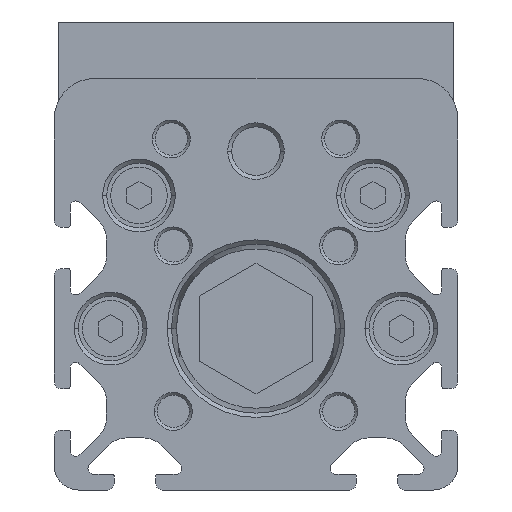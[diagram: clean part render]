
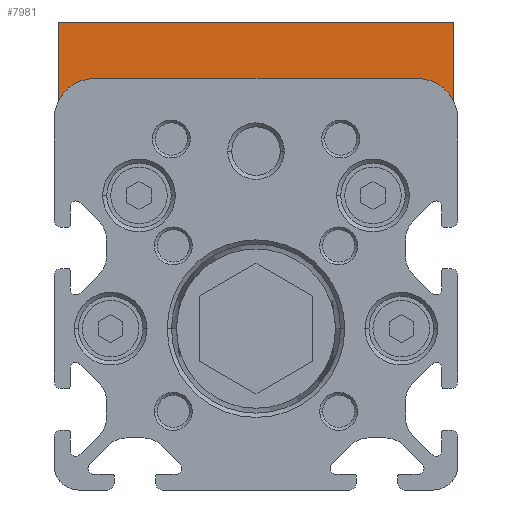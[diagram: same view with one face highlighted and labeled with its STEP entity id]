
A CAD part, left-side view. The second image highlights one B-rep face of the part: STEP entity #7981.
In plain terms, the highlighted planar face has unit normal (-1, 0, 0).
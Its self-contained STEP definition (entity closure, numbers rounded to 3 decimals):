
#257 = EDGE_CURVE ( 'NONE', #3636, #15406, #4924, .T. ) ;
#1990 = CARTESIAN_POINT ( 'NONE',  ( -27.5, 22., 0. ) ) ;
#2628 = EDGE_CURVE ( 'NONE', #23564, #15406, #4145, .T. ) ;
#3283 = LINE ( 'NONE', #17946, #12803 ) ;
#3596 = DIRECTION ( 'NONE',  ( 0., 0., 1. ) ) ;
#3636 = VERTEX_POINT ( 'NONE', #8396 ) ;
#4145 = LINE ( 'NONE', #10349, #9450 ) ;
#4288 = CARTESIAN_POINT ( 'NONE',  ( -27.5, 24.5, 18. ) ) ;
#4924 = LINE ( 'NONE', #25516, #21695 ) ;
#5285 = ORIENTED_EDGE ( 'NONE', *, *, #21792, .T. ) ;
#7981 = ADVANCED_FACE ( 'NONE', ( #25422 ), #11162, .T. ) ;
#8396 = CARTESIAN_POINT ( 'NONE',  ( -27.5, -24.5, 18. ) ) ;
#9450 = VECTOR ( 'NONE', #3596, 1000. ) ;
#10349 = CARTESIAN_POINT ( 'NONE',  ( -27.5, 24.5, 0. ) ) ;
#11162 = PLANE ( 'NONE',  #21671 ) ;
#12478 = LINE ( 'NONE', #1990, #25067 ) ;
#12803 = VECTOR ( 'NONE', #23868, 1000. ) ;
#14762 = ORIENTED_EDGE ( 'NONE', *, *, #257, .T. ) ;
#15323 = DIRECTION ( 'NONE',  ( 0., -1., 0. ) ) ;
#15406 = VERTEX_POINT ( 'NONE', #4288 ) ;
#16858 = DIRECTION ( 'NONE',  ( -1., 0., 0. ) ) ;
#17946 = CARTESIAN_POINT ( 'NONE',  ( -27.5, -24.5, 0.7 ) ) ;
#18858 = DIRECTION ( 'NONE',  ( 0., -1., 0. ) ) ;
#19470 = CARTESIAN_POINT ( 'NONE',  ( -27.5, 24.5, 0. ) ) ;
#20534 = ORIENTED_EDGE ( 'NONE', *, *, #2628, .F. ) ;
#21281 = CARTESIAN_POINT ( 'NONE',  ( -27.5, 0., -20. ) ) ;
#21671 = AXIS2_PLACEMENT_3D ( 'NONE', #21281, #16858, #15323 ) ;
#21695 = VECTOR ( 'NONE', #25643, 1000. ) ;
#21792 = EDGE_CURVE ( 'NONE', #23564, #27090, #12478, .T. ) ;
#23211 = ORIENTED_EDGE ( 'NONE', *, *, #24900, .F. ) ;
#23564 = VERTEX_POINT ( 'NONE', #19470 ) ;
#23868 = DIRECTION ( 'NONE',  ( 0., 0., -1. ) ) ;
#24900 = EDGE_CURVE ( 'NONE', #3636, #27090, #3283, .T. ) ;
#25067 = VECTOR ( 'NONE', #18858, 1000. ) ;
#25422 = FACE_OUTER_BOUND ( 'NONE', #26326, .T. ) ;
#25516 = CARTESIAN_POINT ( 'NONE',  ( -27.5, 24.5, 18. ) ) ;
#25643 = DIRECTION ( 'NONE',  ( 0., 1., 0. ) ) ;
#26326 = EDGE_LOOP ( 'NONE', ( #23211, #14762, #20534, #5285 ) ) ;
#27022 = CARTESIAN_POINT ( 'NONE',  ( -27.5, -24.5, 0. ) ) ;
#27090 = VERTEX_POINT ( 'NONE', #27022 ) ;
